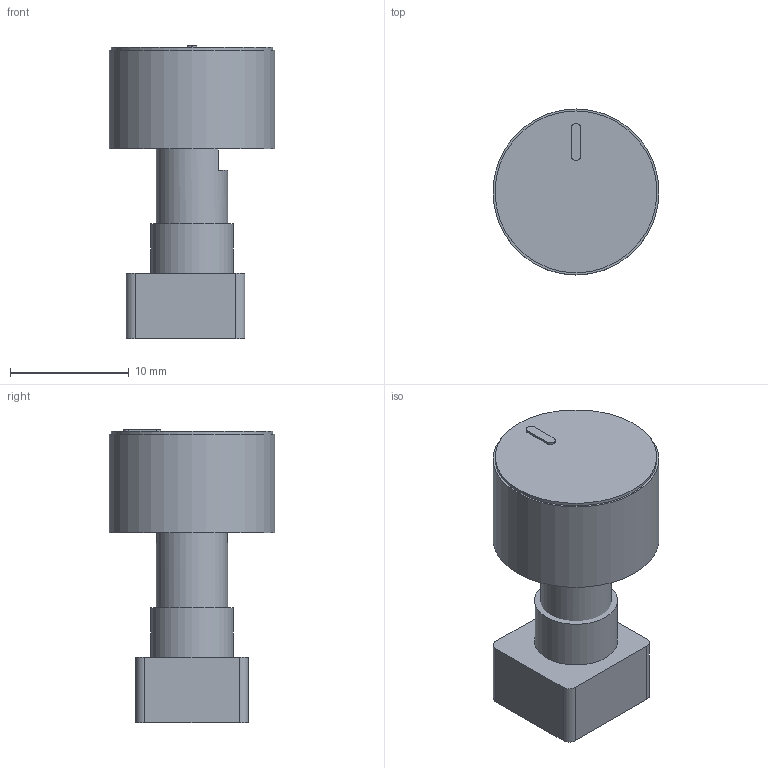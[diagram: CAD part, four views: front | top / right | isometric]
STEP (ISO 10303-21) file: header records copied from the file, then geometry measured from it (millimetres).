
FILE_DESCRIPTION(('Open CASCADE Model'),'2;1');
FILE_NAME('Open CASCADE Shape Model','2026-11-21T14:29:36',('Author'),( 'Open CASCADE'),'Open CASCADE STEP processor 7.9','Open CASCADE 7.9' ,'Unknown');
FILE_SCHEMA(('AUTOMOTIVE_DESIGN { 1 0 10303 214 1 1 1 1 }'));
Length unit declared in the file: millimetre
Products named in the file (7): Level_PTV09; Pot body; Bushing; D shaft; Knob; Cap; Index
Assembly tree (6 placements, depth 2):
  Level_PTV09
    Pot body
    Bushing
    D shaft
    Knob
    Cap
    Index
Bounding box: 14 x 14 x 24.73 mm (x, y, z)
Volume: 2217.8 mm3; surface area: 1969.3 mm2
Topology: 6 solids, 6 shells, 36 faces, 69 edges, 46 vertices
Faces by surface type: plane 23, cylinder 13
Full cylindrical faces by diameter (mm): 6 x1, 6.2 x1, 7 x1, 13.65 x1, 14 x1
Entity records: 2001 total; most frequent: CARTESIAN_POINT 362, DIRECTION 305, LINE 145, VECTOR 145, ORIENTED_EDGE 138, PCURVE 138, DEFINITIONAL_REPRESENTATION 138, AXIS2_PLACEMENT_3D 71
